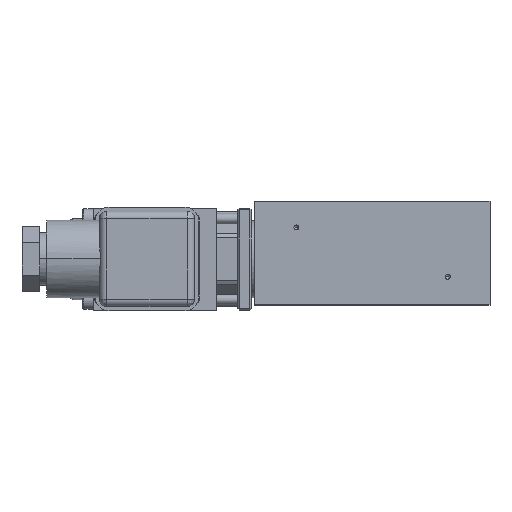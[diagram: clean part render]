
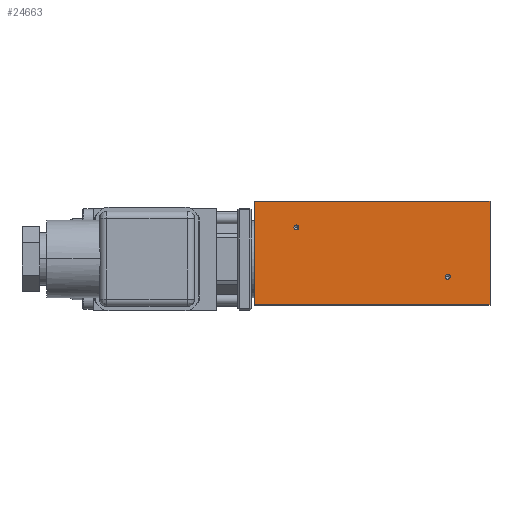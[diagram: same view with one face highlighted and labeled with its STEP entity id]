
A CAD part, top view. The second image highlights one B-rep face of the part: STEP entity #24663.
In plain terms, the highlighted planar face has unit normal (0, 0, 1).
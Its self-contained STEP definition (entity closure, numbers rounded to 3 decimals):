
#404 = CARTESIAN_POINT ( 'NONE',  ( 67., 14.75, 15. ) ) ;
#692 = CARTESIAN_POINT ( 'NONE',  ( 0., -14.75, 15. ) ) ;
#796 = DIRECTION ( 'NONE',  ( 0., 0., 1. ) ) ;
#1011 = DIRECTION ( 'NONE',  ( 1., 0., 0. ) ) ;
#1353 = AXIS2_PLACEMENT_3D ( 'NONE', #12927, #30648, #15418 ) ;
#2416 = AXIS2_PLACEMENT_3D ( 'NONE', #31553, #16295, #1011 ) ;
#3400 = DIRECTION ( 'NONE',  ( 0., -1., 0. ) ) ;
#3698 = LINE ( 'NONE', #29746, #18032 ) ;
#4053 = VERTEX_POINT ( 'NONE', #14156 ) ;
#4507 = AXIS2_PLACEMENT_3D ( 'NONE', #9054, #26750, #11622 ) ;
#4949 = VERTEX_POINT ( 'NONE', #404 ) ;
#5089 = CARTESIAN_POINT ( 'NONE',  ( 11.3, 7.25, 15. ) ) ;
#5633 = ORIENTED_EDGE ( 'NONE', *, *, #6092, .T. ) ;
#5645 = EDGE_LOOP ( 'NONE', ( #5633, #7067, #6539, #6349 ) ) ;
#5732 = ORIENTED_EDGE ( 'NONE', *, *, #13437, .F. ) ;
#5797 = ORIENTED_EDGE ( 'NONE', *, *, #26930, .F. ) ;
#6092 = EDGE_CURVE ( 'NONE', #16670, #17216, #23021, .T. ) ;
#6349 = ORIENTED_EDGE ( 'NONE', *, *, #22749, .T. ) ;
#6539 = ORIENTED_EDGE ( 'NONE', *, *, #13902, .T. ) ;
#7067 = ORIENTED_EDGE ( 'NONE', *, *, #14096, .T. ) ;
#7083 = CARTESIAN_POINT ( 'NONE',  ( 0., -14.75, 15. ) ) ;
#8201 = ORIENTED_EDGE ( 'NONE', *, *, #18664, .F. ) ;
#8406 = ORIENTED_EDGE ( 'NONE', *, *, #21919, .F. ) ;
#9054 = CARTESIAN_POINT ( 'NONE',  ( 55., -6.75, 15. ) ) ;
#9261 = LINE ( 'NONE', #23883, #27869 ) ;
#9589 = VECTOR ( 'NONE', #3400, 1000. ) ;
#9600 = DIRECTION ( 'NONE',  ( 0., 1., 0. ) ) ;
#10048 = DIRECTION ( 'NONE',  ( 0., 0., 1. ) ) ;
#11622 = DIRECTION ( 'NONE',  ( 1., 0., 0. ) ) ;
#12927 = CARTESIAN_POINT ( 'NONE',  ( 0., 0., 15. ) ) ;
#13212 = CIRCLE ( 'NONE', #25525, 0.7 ) ;
#13394 = FACE_BOUND ( 'NONE', #26676, .T. ) ;
#13437 = EDGE_CURVE ( 'NONE', #4053, #26707, #23243, .T. ) ;
#13902 = EDGE_CURVE ( 'NONE', #27876, #4949, #3698, .T. ) ;
#14096 = EDGE_CURVE ( 'NONE', #17216, #27876, #19273, .T. ) ;
#14156 = CARTESIAN_POINT ( 'NONE',  ( 54.3, -6.75, 15. ) ) ;
#14846 = VERTEX_POINT ( 'NONE', #27448 ) ;
#14966 = CIRCLE ( 'NONE', #2416, 0.7 ) ;
#15026 = CARTESIAN_POINT ( 'NONE',  ( 67., -14.75, 15. ) ) ;
#15418 = DIRECTION ( 'NONE',  ( -1., 0., 0. ) ) ;
#16095 = CARTESIAN_POINT ( 'NONE',  ( 12., 7.25, 15. ) ) ;
#16106 = CARTESIAN_POINT ( 'NONE',  ( 0., -14.75, 15. ) ) ;
#16295 = DIRECTION ( 'NONE',  ( 0., 0., 1. ) ) ;
#16670 = VERTEX_POINT ( 'NONE', #29853 ) ;
#17216 = VERTEX_POINT ( 'NONE', #7083 ) ;
#17554 = CARTESIAN_POINT ( 'NONE',  ( 55.7, -6.75, 15. ) ) ;
#18032 = VECTOR ( 'NONE', #9600, 1000. ) ;
#18612 = DIRECTION ( 'NONE',  ( 1., 0., 0. ) ) ;
#18664 = EDGE_CURVE ( 'NONE', #26707, #4053, #14966, .T. ) ;
#19273 = LINE ( 'NONE', #16106, #32052 ) ;
#20863 = FACE_BOUND ( 'NONE', #31509, .T. ) ;
#21919 = EDGE_CURVE ( 'NONE', #26773, #14846, #13212, .T. ) ;
#22749 = EDGE_CURVE ( 'NONE', #4949, #16670, #9261, .T. ) ;
#22993 = AXIS2_PLACEMENT_3D ( 'NONE', #16095, #796, #18612 ) ;
#23021 = LINE ( 'NONE', #692, #9589 ) ;
#23243 = CIRCLE ( 'NONE', #4507, 0.7 ) ;
#23763 = CIRCLE ( 'NONE', #22993, 0.7 ) ;
#23883 = CARTESIAN_POINT ( 'NONE',  ( 0., 14.75, 15. ) ) ;
#24663 = ADVANCED_FACE ( 'NONE', ( #20863, #13394, #26822 ), #32895, .F. ) ;
#25175 = CARTESIAN_POINT ( 'NONE',  ( 12., 7.25, 15. ) ) ;
#25525 = AXIS2_PLACEMENT_3D ( 'NONE', #25175, #10048, #27730 ) ;
#26425 = DIRECTION ( 'NONE',  ( -1., 0., 0. ) ) ;
#26676 = EDGE_LOOP ( 'NONE', ( #8201, #5732 ) ) ;
#26707 = VERTEX_POINT ( 'NONE', #17554 ) ;
#26750 = DIRECTION ( 'NONE',  ( 0., 0., 1. ) ) ;
#26773 = VERTEX_POINT ( 'NONE', #5089 ) ;
#26822 = FACE_OUTER_BOUND ( 'NONE', #5645, .T. ) ;
#26930 = EDGE_CURVE ( 'NONE', #14846, #26773, #23763, .T. ) ;
#27448 = CARTESIAN_POINT ( 'NONE',  ( 12.7, 7.25, 15. ) ) ;
#27730 = DIRECTION ( 'NONE',  ( 1., 0., 0. ) ) ;
#27869 = VECTOR ( 'NONE', #26425, 1000. ) ;
#27876 = VERTEX_POINT ( 'NONE', #15026 ) ;
#29746 = CARTESIAN_POINT ( 'NONE',  ( 67., -14.75, 15. ) ) ;
#29853 = CARTESIAN_POINT ( 'NONE',  ( 0., 14.75, 15. ) ) ;
#30648 = DIRECTION ( 'NONE',  ( 0., 0., -1. ) ) ;
#31351 = DIRECTION ( 'NONE',  ( 1., 0., 0. ) ) ;
#31509 = EDGE_LOOP ( 'NONE', ( #5797, #8406 ) ) ;
#31553 = CARTESIAN_POINT ( 'NONE',  ( 55., -6.75, 15. ) ) ;
#32052 = VECTOR ( 'NONE', #31351, 1000. ) ;
#32895 = PLANE ( 'NONE',  #1353 ) ;
